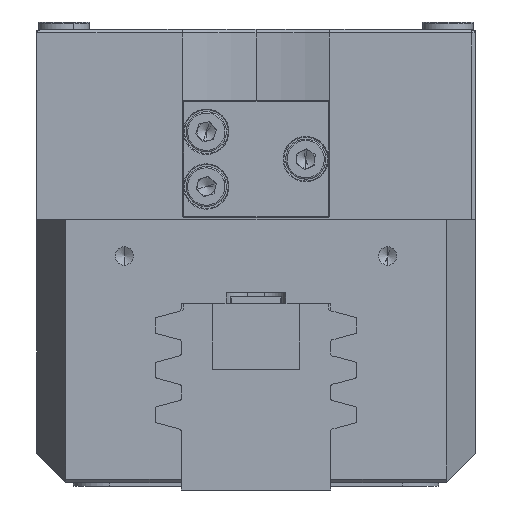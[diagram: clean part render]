
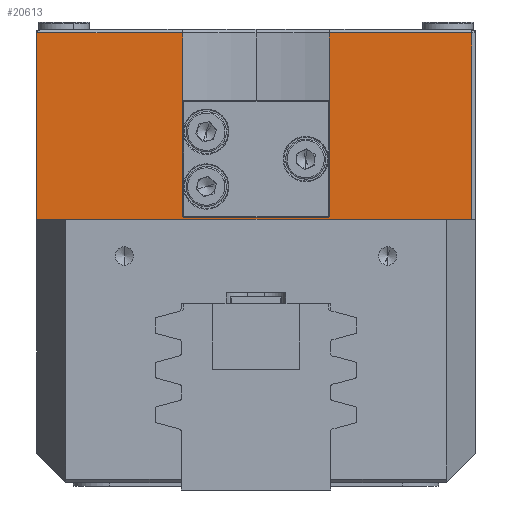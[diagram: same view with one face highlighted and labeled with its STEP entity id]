
A CAD part, left-side view. The second image highlights one B-rep face of the part: STEP entity #20613.
In plain terms, the highlighted planar face has unit normal (-1, 0, 0).
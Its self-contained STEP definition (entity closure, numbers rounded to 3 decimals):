
#204 = ORIENTED_EDGE ( 'NONE', *, *, #28567, .T. ) ;
#643 = CARTESIAN_POINT ( 'NONE',  ( -104.552, 29.111, 30.506 ) ) ;
#763 = CARTESIAN_POINT ( 'NONE',  ( -104.552, -10.436, 30.506 ) ) ;
#1295 = ORIENTED_EDGE ( 'NONE', *, *, #35777, .T. ) ;
#1600 = VECTOR ( 'NONE', #29722, 1000. ) ;
#1647 = ORIENTED_EDGE ( 'NONE', *, *, #39826, .T. ) ;
#2545 = CARTESIAN_POINT ( 'NONE',  ( -104.552, 29.064, 5.356 ) ) ;
#2905 = VECTOR ( 'NONE', #44476, 1000. ) ;
#4133 = EDGE_LOOP ( 'NONE', ( #20574, #1295, #38455, #1647, #23878, #37268, #37969, #17021, #204, #36085, #24685, #6909 ) ) ;
#5538 = VERTEX_POINT ( 'NONE', #763 ) ;
#5816 = VECTOR ( 'NONE', #12071, 1000. ) ;
#6698 = VERTEX_POINT ( 'NONE', #43141 ) ;
#6759 = CARTESIAN_POINT ( 'NONE',  ( -104.552, 9.018, 30.506 ) ) ;
#6909 = ORIENTED_EDGE ( 'NONE', *, *, #21456, .F. ) ;
#7692 = CARTESIAN_POINT ( 'NONE',  ( -104.552, 9.018, 21.006 ) ) ;
#8474 = CARTESIAN_POINT ( 'NONE',  ( -104.552, 58.023, 21.006 ) ) ;
#9445 = DIRECTION ( 'NONE',  ( 0., -1., 0. ) ) ;
#10033 = LINE ( 'NONE', #43973, #24181 ) ;
#11185 = LINE ( 'NONE', #36821, #1600 ) ;
#11372 = CARTESIAN_POINT ( 'NONE',  ( -104.552, 49.064, 30.506 ) ) ;
#11514 = VERTEX_POINT ( 'NONE', #38652 ) ;
#11739 = VECTOR ( 'NONE', #29676, 1000. ) ;
#12071 = DIRECTION ( 'NONE',  ( 0., 0., 1. ) ) ;
#12126 = DIRECTION ( 'NONE',  ( 0., 0., -1. ) ) ;
#12610 = CARTESIAN_POINT ( 'NONE',  ( -104.552, 58.023, 5.006 ) ) ;
#12740 = CARTESIAN_POINT ( 'NONE',  ( -104.552, 29.111, 21.006 ) ) ;
#12941 = VECTOR ( 'NONE', #17666, 1000. ) ;
#12975 = LINE ( 'NONE', #8474, #29467 ) ;
#14932 = DIRECTION ( 'NONE',  ( -1., 0., 0. ) ) ;
#16050 = EDGE_CURVE ( 'NONE', #11514, #5538, #31743, .T. ) ;
#16559 = LINE ( 'NONE', #33880, #5816 ) ;
#17021 = ORIENTED_EDGE ( 'NONE', *, *, #21431, .F. ) ;
#17666 = DIRECTION ( 'NONE',  ( 0., 1., 0. ) ) ;
#17958 = CARTESIAN_POINT ( 'NONE',  ( -104.552, 9.164, 21.006 ) ) ;
#18403 = PLANE ( 'NONE',  #26650 ) ;
#18563 = CARTESIAN_POINT ( 'NONE',  ( -104.552, 58.023, 5.006 ) ) ;
#18603 = EDGE_CURVE ( 'NONE', #24671, #24536, #41622, .T. ) ;
#20574 = ORIENTED_EDGE ( 'NONE', *, *, #18603, .T. ) ;
#20613 = ADVANCED_FACE ( 'NONE', ( #23748 ), #18403, .T. ) ;
#21411 = LINE ( 'NONE', #2545, #12941 ) ;
#21431 = EDGE_CURVE ( 'NONE', #6698, #32038, #10033, .T. ) ;
#21456 = EDGE_CURVE ( 'NONE', #24671, #35191, #11185, .T. ) ;
#21696 = LINE ( 'NONE', #28176, #33071 ) ;
#22003 = EDGE_CURVE ( 'NONE', #38315, #32038, #44605, .T. ) ;
#23187 = EDGE_CURVE ( 'NONE', #38315, #38153, #44084, .T. ) ;
#23748 = FACE_OUTER_BOUND ( 'NONE', #4133, .T. ) ;
#23878 = ORIENTED_EDGE ( 'NONE', *, *, #41197, .T. ) ;
#24181 = VECTOR ( 'NONE', #37129, 1000. ) ;
#24203 = DIRECTION ( 'NONE',  ( 0., 1., 0. ) ) ;
#24536 = VERTEX_POINT ( 'NONE', #17958 ) ;
#24671 = VERTEX_POINT ( 'NONE', #7692 ) ;
#24685 = ORIENTED_EDGE ( 'NONE', *, *, #46878, .T. ) ;
#26144 = CARTESIAN_POINT ( 'NONE',  ( -104.552, 49.064, 30.506 ) ) ;
#26650 = AXIS2_PLACEMENT_3D ( 'NONE', #18563, #14932, #43958 ) ;
#27845 = VERTEX_POINT ( 'NONE', #42003 ) ;
#28176 = CARTESIAN_POINT ( 'NONE',  ( -104.552, 9.018, 30.506 ) ) ;
#28567 = EDGE_CURVE ( 'NONE', #6698, #11514, #41978, .T. ) ;
#28759 = CARTESIAN_POINT ( 'NONE',  ( -104.552, 29.111, 21.006 ) ) ;
#28838 = VERTEX_POINT ( 'NONE', #35840 ) ;
#29455 = CARTESIAN_POINT ( 'NONE',  ( -104.552, -10.436, 5.006 ) ) ;
#29467 = VECTOR ( 'NONE', #37118, 1000. ) ;
#29676 = DIRECTION ( 'NONE',  ( 0., 1., 0. ) ) ;
#29722 = DIRECTION ( 'NONE',  ( 0., 0., 1. ) ) ;
#31743 = LINE ( 'NONE', #29455, #2905 ) ;
#31960 = EDGE_CURVE ( 'NONE', #27845, #32468, #21411, .T. ) ;
#32038 = VERTEX_POINT ( 'NONE', #11372 ) ;
#32308 = VECTOR ( 'NONE', #9445, 1000. ) ;
#32468 = VERTEX_POINT ( 'NONE', #43144 ) ;
#33071 = VECTOR ( 'NONE', #38926, 1000. ) ;
#33880 = CARTESIAN_POINT ( 'NONE',  ( -104.552, 28.964, 21.256 ) ) ;
#35191 = VERTEX_POINT ( 'NONE', #6759 ) ;
#35777 = EDGE_CURVE ( 'NONE', #24536, #27845, #35979, .T. ) ;
#35840 = CARTESIAN_POINT ( 'NONE',  ( -104.552, 28.964, 21.006 ) ) ;
#35979 = LINE ( 'NONE', #39093, #43368 ) ;
#36085 = ORIENTED_EDGE ( 'NONE', *, *, #16050, .T. ) ;
#36254 = CARTESIAN_POINT ( 'NONE',  ( -104.552, 58.023, 21.006 ) ) ;
#36821 = CARTESIAN_POINT ( 'NONE',  ( -104.552, 9.018, 21.006 ) ) ;
#37118 = DIRECTION ( 'NONE',  ( 0., 1., 0. ) ) ;
#37129 = DIRECTION ( 'NONE',  ( 0., 0., 1. ) ) ;
#37268 = ORIENTED_EDGE ( 'NONE', *, *, #23187, .F. ) ;
#37969 = ORIENTED_EDGE ( 'NONE', *, *, #22003, .T. ) ;
#38153 = VERTEX_POINT ( 'NONE', #28759 ) ;
#38315 = VERTEX_POINT ( 'NONE', #643 ) ;
#38376 = VECTOR ( 'NONE', #12126, 1000. ) ;
#38455 = ORIENTED_EDGE ( 'NONE', *, *, #31960, .T. ) ;
#38652 = CARTESIAN_POINT ( 'NONE',  ( -104.552, -10.436, 5.006 ) ) ;
#38926 = DIRECTION ( 'NONE',  ( 0., 1., 0. ) ) ;
#39093 = CARTESIAN_POINT ( 'NONE',  ( -104.552, 9.164, 5.256 ) ) ;
#39826 = EDGE_CURVE ( 'NONE', #32468, #28838, #16559, .T. ) ;
#40490 = VECTOR ( 'NONE', #24203, 1000. ) ;
#41197 = EDGE_CURVE ( 'NONE', #28838, #38153, #12975, .T. ) ;
#41622 = LINE ( 'NONE', #36254, #40490 ) ;
#41978 = LINE ( 'NONE', #12610, #32308 ) ;
#42003 = CARTESIAN_POINT ( 'NONE',  ( -104.552, 9.164, 5.356 ) ) ;
#42740 = DIRECTION ( 'NONE',  ( 0., 0., -1. ) ) ;
#43141 = CARTESIAN_POINT ( 'NONE',  ( -104.552, 49.064, 5.006 ) ) ;
#43144 = CARTESIAN_POINT ( 'NONE',  ( -104.552, 28.964, 5.356 ) ) ;
#43368 = VECTOR ( 'NONE', #42740, 1000. ) ;
#43958 = DIRECTION ( 'NONE',  ( 0., 0., 1. ) ) ;
#43973 = CARTESIAN_POINT ( 'NONE',  ( -104.552, 49.064, -30.994 ) ) ;
#44084 = LINE ( 'NONE', #12740, #38376 ) ;
#44476 = DIRECTION ( 'NONE',  ( 0., 0., 1. ) ) ;
#44605 = LINE ( 'NONE', #26144, #11739 ) ;
#46878 = EDGE_CURVE ( 'NONE', #5538, #35191, #21696, .T. ) ;
